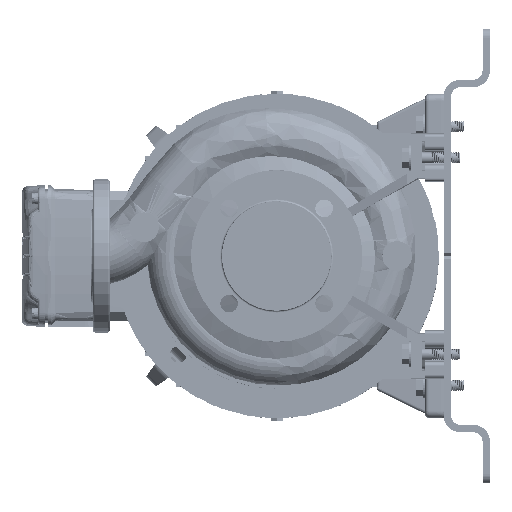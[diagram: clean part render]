
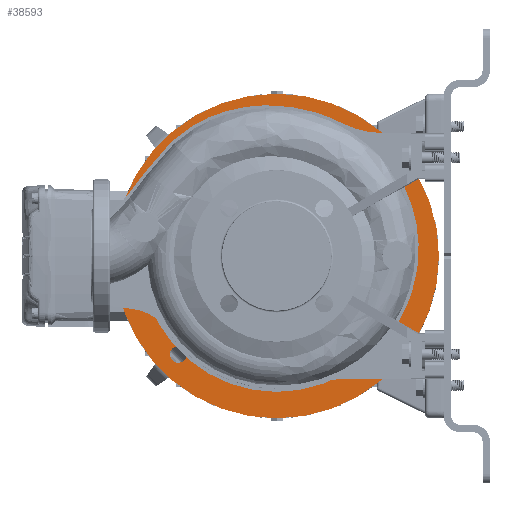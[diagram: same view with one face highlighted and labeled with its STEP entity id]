
A CAD part, left-side view. The second image highlights one B-rep face of the part: STEP entity #38593.
In plain terms, the highlighted planar face has unit normal (-1, 0, 0).
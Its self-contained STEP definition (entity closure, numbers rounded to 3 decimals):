
#736 = DIRECTION ( 'NONE',  ( 1., 0., 0. ) ) ;
#3534 = DIRECTION ( 'NONE',  ( 0., 0., -1. ) ) ;
#3709 = VERTEX_POINT ( 'NONE', #200409 ) ;
#4484 = CIRCLE ( 'NONE', #97144, 9. ) ;
#6835 = DIRECTION ( 'NONE',  ( 0., 0., 1. ) ) ;
#7069 = CIRCLE ( 'NONE', #196366, 9. ) ;
#13727 = ORIENTED_EDGE ( 'NONE', *, *, #114938, .F. ) ;
#16241 = CARTESIAN_POINT ( 'NONE',  ( 467.255, 589.343, 788.564 ) ) ;
#17317 = EDGE_CURVE ( 'NONE', #58169, #210954, #181200, .T. ) ;
#19827 = CARTESIAN_POINT ( 'NONE',  ( 467.255, 589.343, 779.564 ) ) ;
#20690 = VERTEX_POINT ( 'NONE', #100620 ) ;
#21175 = EDGE_LOOP ( 'NONE', ( #150164, #103316 ) ) ;
#21187 = CARTESIAN_POINT ( 'NONE',  ( 467.255, 568.788, 878.011 ) ) ;
#21805 = EDGE_LOOP ( 'NONE', ( #29080, #212626 ) ) ;
#23621 = EDGE_CURVE ( 'NONE', #3709, #20690, #7069, .T. ) ;
#25035 = CARTESIAN_POINT ( 'NONE',  ( 467.255, 801.413, 788.564 ) ) ;
#25248 = CARTESIAN_POINT ( 'NONE',  ( 467.255, 589.343, 1000.743 ) ) ;
#26257 = DIRECTION ( 'NONE',  ( -1., 0., 0. ) ) ;
#26533 = CIRCLE ( 'NONE', #161655, 127.679 ) ;
#27425 = DIRECTION ( 'NONE',  ( 0., 0., 1. ) ) ;
#29080 = ORIENTED_EDGE ( 'NONE', *, *, #17317, .F. ) ;
#30099 = CARTESIAN_POINT ( 'NONE',  ( 467.255, 589.343, 788.564 ) ) ;
#30366 = CIRCLE ( 'NONE', #68750, 127.679 ) ;
#32186 = DIRECTION ( 'NONE',  ( -1., 0., 0. ) ) ;
#32393 = CARTESIAN_POINT ( 'NONE',  ( 467.255, 695.378, 1069.653 ) ) ;
#33143 = ORIENTED_EDGE ( 'NONE', *, *, #138962, .T. ) ;
#37721 = VERTEX_POINT ( 'NONE', #39934 ) ;
#38022 = CIRCLE ( 'NONE', #173139, 175. ) ;
#38262 = CARTESIAN_POINT ( 'NONE',  ( 467.255, 801.413, 1000.743 ) ) ;
#38593 = ADVANCED_FACE ( 'NONE', ( #174795, #97392, #82837, #156621, #171209, #64717 ), #102194, .T. ) ;
#39934 = CARTESIAN_POINT ( 'NONE',  ( 467.255, 695.378, 766.974 ) ) ;
#45108 = DIRECTION ( 'NONE',  ( 1., 0., 0. ) ) ;
#52768 = CIRCLE ( 'NONE', #172552, 9. ) ;
#56694 = CIRCLE ( 'NONE', #75968, 175. ) ;
#58169 = VERTEX_POINT ( 'NONE', #156750 ) ;
#62026 = DIRECTION ( 'NONE',  ( 0., 0., -1. ) ) ;
#62894 = DIRECTION ( 'NONE',  ( 0., 0., -1. ) ) ;
#64717 = FACE_BOUND ( 'NONE', #86294, .T. ) ;
#64747 = DIRECTION ( 'NONE',  ( 1., 0., 0. ) ) ;
#67463 = DIRECTION ( 'NONE',  ( -1., 0., 0. ) ) ;
#68750 = AXIS2_PLACEMENT_3D ( 'NONE', #117976, #64747, #153083 ) ;
#69760 = CIRCLE ( 'NONE', #77491, 23.5 ) ;
#70656 = DIRECTION ( 'NONE',  ( 0., 0., 1. ) ) ;
#71957 = CIRCLE ( 'NONE', #195686, 9. ) ;
#72421 = EDGE_LOOP ( 'NONE', ( #176313, #33143 ) ) ;
#73530 = AXIS2_PLACEMENT_3D ( 'NONE', #99472, #100675, #62026 ) ;
#73613 = VERTEX_POINT ( 'NONE', #133256 ) ;
#73832 = CIRCLE ( 'NONE', #189757, 127.679 ) ;
#75968 = AXIS2_PLACEMENT_3D ( 'NONE', #168528, #151581, #132264 ) ;
#77491 = AXIS2_PLACEMENT_3D ( 'NONE', #93847, #45108, #192675 ) ;
#78325 = CARTESIAN_POINT ( 'NONE',  ( 467.255, 695.378, 1022.333 ) ) ;
#78755 = ORIENTED_EDGE ( 'NONE', *, *, #23621, .T. ) ;
#79546 = EDGE_CURVE ( 'NONE', #20690, #3709, #4484, .T. ) ;
#82491 = CARTESIAN_POINT ( 'NONE',  ( 467.255, 801.413, 779.564 ) ) ;
#82837 = FACE_OUTER_BOUND ( 'NONE', #236191, .T. ) ;
#86294 = EDGE_LOOP ( 'NONE', ( #112456, #126444, #131310, #183805 ) ) ;
#86761 = DIRECTION ( 'NONE',  ( 0., 0., -1. ) ) ;
#87718 = CARTESIAN_POINT ( 'NONE',  ( 467.255, 801.413, 788.564 ) ) ;
#88015 = DIRECTION ( 'NONE',  ( 0., 0., 1. ) ) ;
#88036 = VERTEX_POINT ( 'NONE', #170952 ) ;
#89954 = DIRECTION ( 'NONE',  ( 1., 0., 0. ) ) ;
#90000 = DIRECTION ( 'NONE',  ( -1., 0., 0. ) ) ;
#92194 = AXIS2_PLACEMENT_3D ( 'NONE', #25248, #67463, #86761 ) ;
#93313 = EDGE_CURVE ( 'NONE', #88036, #224545, #52768, .T. ) ;
#93847 = CARTESIAN_POINT ( 'NONE',  ( 467.255, 585.38, 894.653 ) ) ;
#95421 = CARTESIAN_POINT ( 'NONE',  ( 467.255, 695.378, 894.653 ) ) ;
#96655 = AXIS2_PLACEMENT_3D ( 'NONE', #16241, #89954, #237644 ) ;
#97144 = AXIS2_PLACEMENT_3D ( 'NONE', #220957, #184596, #223305 ) ;
#97392 = FACE_BOUND ( 'NONE', #21805, .T. ) ;
#99125 = DIRECTION ( 'NONE',  ( 1., 0., 0. ) ) ;
#99472 = CARTESIAN_POINT ( 'NONE',  ( 467.255, 589.343, 1000.743 ) ) ;
#100620 = CARTESIAN_POINT ( 'NONE',  ( 467.255, 801.413, 1009.743 ) ) ;
#100675 = DIRECTION ( 'NONE',  ( -1., 0., 0. ) ) ;
#102194 = PLANE ( 'NONE',  #139772 ) ;
#103316 = ORIENTED_EDGE ( 'NONE', *, *, #164682, .F. ) ;
#106007 = EDGE_CURVE ( 'NONE', #131597, #238907, #197560, .T. ) ;
#106185 = CARTESIAN_POINT ( 'NONE',  ( 467.255, 695.378, 894.653 ) ) ;
#107357 = DIRECTION ( 'NONE',  ( 1., 0., 0. ) ) ;
#112456 = ORIENTED_EDGE ( 'NONE', *, *, #155864, .T. ) ;
#114565 = CARTESIAN_POINT ( 'NONE',  ( 467.255, 589.343, 1009.743 ) ) ;
#114938 = EDGE_CURVE ( 'NONE', #198399, #211722, #56694, .T. ) ;
#117976 = CARTESIAN_POINT ( 'NONE',  ( 467.255, 695.378, 894.653 ) ) ;
#126444 = ORIENTED_EDGE ( 'NONE', *, *, #216675, .T. ) ;
#126533 = EDGE_CURVE ( 'NONE', #210954, #58169, #208803, .T. ) ;
#126701 = EDGE_CURVE ( 'NONE', #73613, #197232, #69760, .T. ) ;
#131127 = EDGE_LOOP ( 'NONE', ( #78755, #202077 ) ) ;
#131310 = ORIENTED_EDGE ( 'NONE', *, *, #225255, .T. ) ;
#131597 = VERTEX_POINT ( 'NONE', #171544 ) ;
#132264 = DIRECTION ( 'NONE',  ( 0., 0., -1. ) ) ;
#133256 = CARTESIAN_POINT ( 'NONE',  ( 467.255, 568.788, 911.295 ) ) ;
#135661 = AXIS2_PLACEMENT_3D ( 'NONE', #87718, #32186, #27425 ) ;
#138962 = EDGE_CURVE ( 'NONE', #224545, #88036, #208801, .T. ) ;
#139772 = AXIS2_PLACEMENT_3D ( 'NONE', #217101, #90000, #70656 ) ;
#142504 = DIRECTION ( 'NONE',  ( 1., 0., 0. ) ) ;
#150164 = ORIENTED_EDGE ( 'NONE', *, *, #106007, .F. ) ;
#151581 = DIRECTION ( 'NONE',  ( 1., 0., 0. ) ) ;
#153083 = DIRECTION ( 'NONE',  ( 0., 0., -1. ) ) ;
#153922 = DIRECTION ( 'NONE',  ( 0., 0., -1. ) ) ;
#155864 = EDGE_CURVE ( 'NONE', #197232, #37721, #26533, .T. ) ;
#156621 = FACE_BOUND ( 'NONE', #21175, .T. ) ;
#156750 = CARTESIAN_POINT ( 'NONE',  ( 467.255, 589.343, 991.743 ) ) ;
#161655 = AXIS2_PLACEMENT_3D ( 'NONE', #95421, #169225, #3534 ) ;
#164682 = EDGE_CURVE ( 'NONE', #238907, #131597, #71957, .T. ) ;
#168528 = CARTESIAN_POINT ( 'NONE',  ( 467.255, 695.378, 894.653 ) ) ;
#169225 = DIRECTION ( 'NONE',  ( 1., 0., 0. ) ) ;
#169295 = VERTEX_POINT ( 'NONE', #78325 ) ;
#170952 = CARTESIAN_POINT ( 'NONE',  ( 467.255, 589.343, 797.564 ) ) ;
#171209 = FACE_BOUND ( 'NONE', #72421, .T. ) ;
#171544 = CARTESIAN_POINT ( 'NONE',  ( 467.255, 801.413, 797.564 ) ) ;
#172552 = AXIS2_PLACEMENT_3D ( 'NONE', #30099, #107357, #88015 ) ;
#173139 = AXIS2_PLACEMENT_3D ( 'NONE', #211665, #99125, #62894 ) ;
#174795 = FACE_BOUND ( 'NONE', #131127, .T. ) ;
#176313 = ORIENTED_EDGE ( 'NONE', *, *, #93313, .T. ) ;
#180024 = DIRECTION ( 'NONE',  ( 0., 0., -1. ) ) ;
#181200 = CIRCLE ( 'NONE', #92194, 9. ) ;
#181307 = EDGE_CURVE ( 'NONE', #211722, #198399, #38022, .T. ) ;
#183805 = ORIENTED_EDGE ( 'NONE', *, *, #126701, .T. ) ;
#184596 = DIRECTION ( 'NONE',  ( 1., 0., 0. ) ) ;
#189757 = AXIS2_PLACEMENT_3D ( 'NONE', #106185, #142504, #180024 ) ;
#192675 = DIRECTION ( 'NONE',  ( 0., 0., 1. ) ) ;
#195686 = AXIS2_PLACEMENT_3D ( 'NONE', #25035, #26257, #6835 ) ;
#196366 = AXIS2_PLACEMENT_3D ( 'NONE', #38262, #736, #153922 ) ;
#197232 = VERTEX_POINT ( 'NONE', #21187 ) ;
#197560 = CIRCLE ( 'NONE', #135661, 9. ) ;
#198399 = VERTEX_POINT ( 'NONE', #32393 ) ;
#200409 = CARTESIAN_POINT ( 'NONE',  ( 467.255, 801.413, 991.743 ) ) ;
#202077 = ORIENTED_EDGE ( 'NONE', *, *, #79546, .T. ) ;
#208801 = CIRCLE ( 'NONE', #96655, 9. ) ;
#208803 = CIRCLE ( 'NONE', #73530, 9. ) ;
#209560 = CARTESIAN_POINT ( 'NONE',  ( 467.255, 695.378, 719.653 ) ) ;
#210954 = VERTEX_POINT ( 'NONE', #114565 ) ;
#211665 = CARTESIAN_POINT ( 'NONE',  ( 467.255, 695.378, 894.653 ) ) ;
#211722 = VERTEX_POINT ( 'NONE', #209560 ) ;
#212016 = ORIENTED_EDGE ( 'NONE', *, *, #181307, .F. ) ;
#212626 = ORIENTED_EDGE ( 'NONE', *, *, #126533, .F. ) ;
#216675 = EDGE_CURVE ( 'NONE', #37721, #169295, #73832, .T. ) ;
#217101 = CARTESIAN_POINT ( 'NONE',  ( 467.255, 870.378, 894.653 ) ) ;
#220957 = CARTESIAN_POINT ( 'NONE',  ( 467.255, 801.413, 1000.743 ) ) ;
#223305 = DIRECTION ( 'NONE',  ( 0., 0., -1. ) ) ;
#224545 = VERTEX_POINT ( 'NONE', #19827 ) ;
#225255 = EDGE_CURVE ( 'NONE', #169295, #73613, #30366, .T. ) ;
#236191 = EDGE_LOOP ( 'NONE', ( #212016, #13727 ) ) ;
#237644 = DIRECTION ( 'NONE',  ( 0., 0., 1. ) ) ;
#238907 = VERTEX_POINT ( 'NONE', #82491 ) ;
